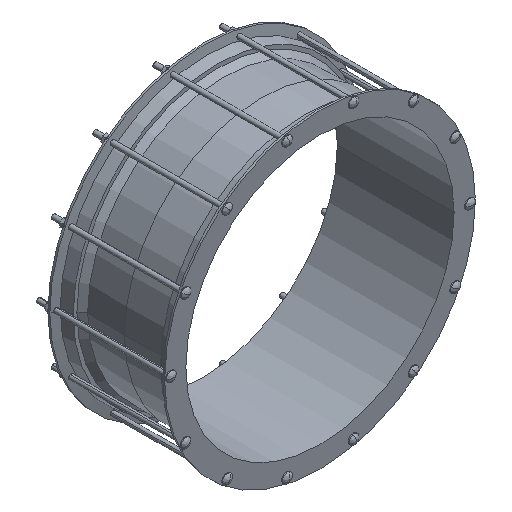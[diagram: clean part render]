
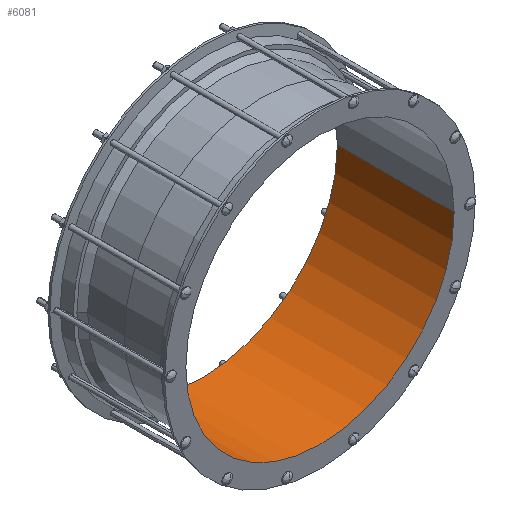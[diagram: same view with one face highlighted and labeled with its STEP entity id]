
A CAD part, isometric view. The second image highlights one B-rep face of the part: STEP entity #6081.
In plain terms, the highlighted cylindrical face has radius 347 mm (diameter 694 mm), a partial arc.
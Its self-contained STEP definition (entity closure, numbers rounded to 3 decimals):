
#2095=CARTESIAN_POINT('',(0.,151.,0.));
#2096=DIRECTION('',(0.,-1.,0.));
#2097=DIRECTION('',(-1.,0.,0.));
#2098=AXIS2_PLACEMENT_3D('',#2095,#2096,#2097);
#2245=CARTESIAN_POINT('',(0.,-151.,0.));
#2246=DIRECTION('',(0.,-1.,0.));
#2247=DIRECTION('',(-1.,0.,0.));
#2248=AXIS2_PLACEMENT_3D('',#2245,#2246,#2247);
#2250=DIRECTION('',(0.,1.,0.));
#2251=VECTOR('',#2250,302.);
#2252=CARTESIAN_POINT('',(-347.,-151.,0.));
#2253=LINE('',#2252,#2251);
#2259=DIRECTION('',(0.,1.,0.));
#2260=VECTOR('',#2259,302.);
#2261=CARTESIAN_POINT('',(347.,-151.,0.));
#2262=LINE('',#2261,#2260);
#4530=CARTESIAN_POINT('',(-347.,-151.,0.));
#4531=CARTESIAN_POINT('',(-347.,151.,0.));
#4532=VERTEX_POINT('',#4530);
#4533=VERTEX_POINT('',#4531);
#4548=CARTESIAN_POINT('',(347.,-151.,0.));
#4549=CARTESIAN_POINT('',(347.,151.,0.));
#4550=VERTEX_POINT('',#4548);
#4551=VERTEX_POINT('',#4549);
#6067=CARTESIAN_POINT('',(0.,166.1,0.));
#6068=DIRECTION('',(0.,-1.,0.));
#6069=DIRECTION('',(-1.,0.,0.));
#6070=AXIS2_PLACEMENT_3D('',#6067,#6068,#6069);
#6071=CYLINDRICAL_SURFACE('',#6070,347.);
#6073=ORIENTED_EDGE('',*,*,#6072,.T.);
#6074=ORIENTED_EDGE('',*,*,#5977,.T.);
#6076=ORIENTED_EDGE('',*,*,#6075,.F.);
#6078=ORIENTED_EDGE('',*,*,#6077,.F.);
#6079=EDGE_LOOP('',(#6073,#6074,#6076,#6078));
#6080=FACE_OUTER_BOUND('',#6079,.F.);
#6081=ADVANCED_FACE('',(#6080),#6071,.F.);
#2099=CIRCLE('',#2098,347.);
#2249=CIRCLE('',#2248,347.);
#5977=EDGE_CURVE('',#4533,#4551,#2099,.T.);
#6072=EDGE_CURVE('',#4532,#4533,#2253,.T.);
#6075=EDGE_CURVE('',#4550,#4551,#2262,.T.);
#6077=EDGE_CURVE('',#4532,#4550,#2249,.T.);
